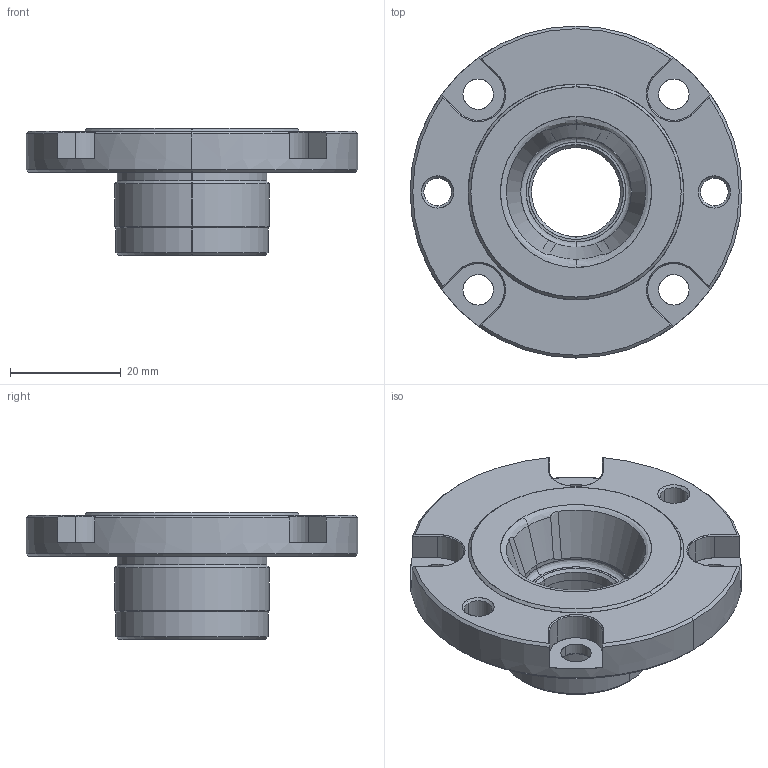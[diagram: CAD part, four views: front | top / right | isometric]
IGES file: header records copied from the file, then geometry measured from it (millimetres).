
Start section: SolidWorks IGES file using analytic representation for surfaces
Global section: file name: X:\11_SW2020-Inv2020\00_全2021-11新製品まで\a\AMWF40-BU-D\amwf40-bu-d.IGS; native system: SolidWorks 2020; preprocessor: SolidWorks 2020; author: ImaoCorp; date: 211021.163531; units: millimetre
Bounding box: 60 x 60 x 23 mm (x, y, z)
Surface area: 9566.7 mm2 (no closed solid volume)
Topology: 0 solids, 0 shells, 124 faces, 1679 edges, 1679 vertices
Faces by surface type: revolution 88, bspline 36
